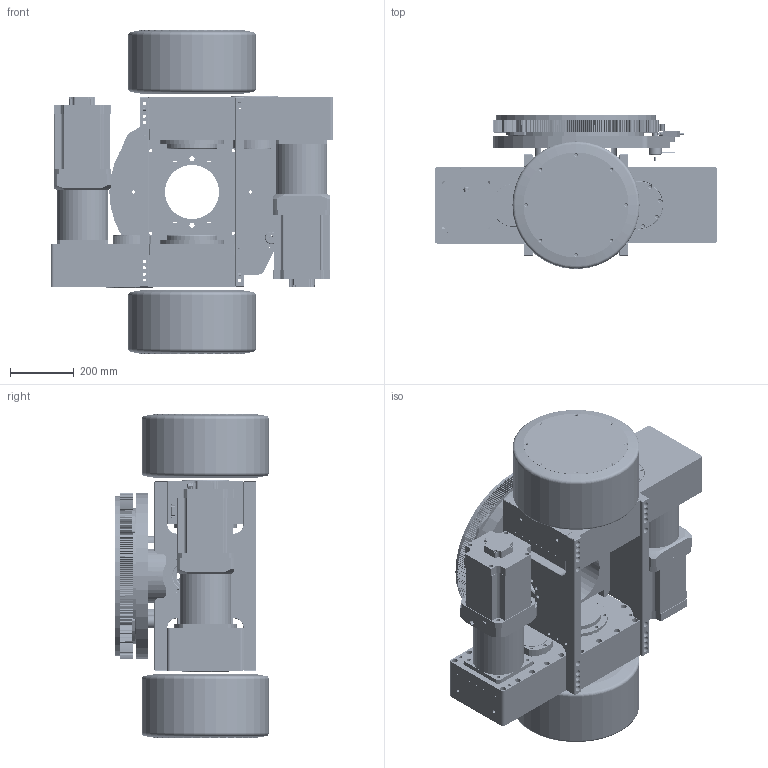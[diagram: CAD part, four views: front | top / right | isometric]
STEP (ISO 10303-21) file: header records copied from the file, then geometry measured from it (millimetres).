
FILE_DESCRIPTION (( 'STEP AP214' ), '1' );
FILE_NAME ('TEC400P402SP20-100-2DDBJ.V1媼坋勣船厒謫郪.STEP', '2026-03-02T09:07:02', ( 'Admin' ), ( '' ), 'SwSTEP 2.0', 'SolidWorks 2021', '' );
FILE_SCHEMA (( 'AUTOMOTIVE_DESIGN' ));
Length unit declared in the file: millimetre
Products named in the file (1): TEC400P402SP20-100-2DDBJ.V1媼坋勣船厒謫郪
Bounding box: 890 x 484 x 1018 mm (x, y, z)
Surface area: 5409259.2 mm2 (no closed solid volume)
Topology: 0 solids, 74 shells, 2344 faces, 9588 edges, 6945 vertices
Faces by surface type: cylinder 1156, bspline 512, plane 502, cone 160, torus 14
Entity records: 138503 total; most frequent: CARTESIAN_POINT 33446, DIRECTION 16723, ORIENTED_EDGE 14796, EDGE_CURVE 9588, VERTEX_POINT 6945, AXIS2_PLACEMENT_3D 6556, CIRCLE 4723, VECTOR 3611
